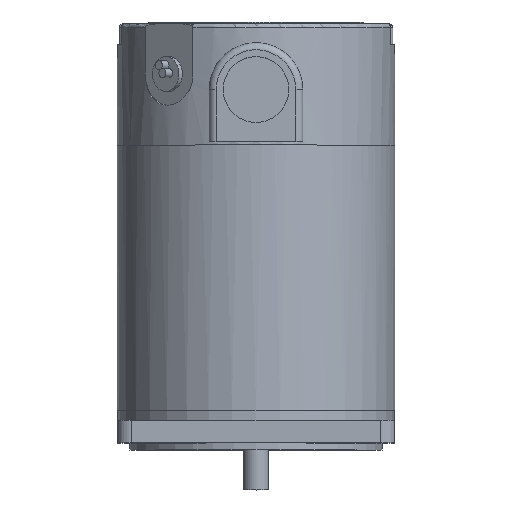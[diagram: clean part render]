
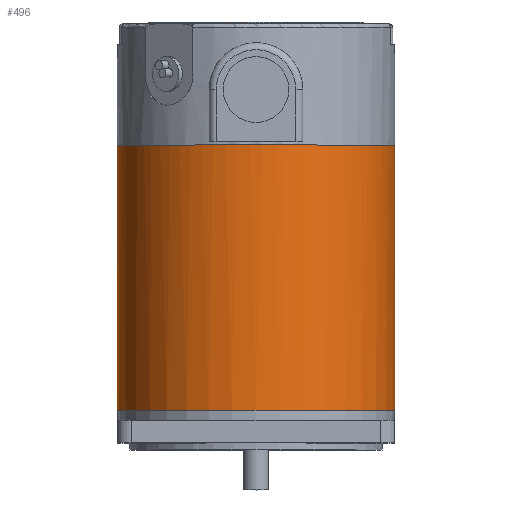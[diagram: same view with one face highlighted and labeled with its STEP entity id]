
A CAD part, top view. The second image highlights one B-rep face of the part: STEP entity #496.
In plain terms, the highlighted cylindrical face has radius 40.05 mm (diameter 80.1 mm), a full revolution.
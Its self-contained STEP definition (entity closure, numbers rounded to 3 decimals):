
#454=CARTESIAN_POINT('',(40.05,82.75,0.));
#455=VERTEX_POINT('',#454);
#456=CARTESIAN_POINT('',(0.0,82.75,0.0));
#457=DIRECTION('',(0.0,-1.0,0.0));
#458=DIRECTION('',(-1.0,0.0,0.0));
#459=AXIS2_PLACEMENT_3D('',#456,#457,#458);
#460=CIRCLE('',#459,40.05);
#461=EDGE_CURVE('',#455,#455,#460,.T.);
#477=CARTESIAN_POINT('',(0.0,6.25,0.0));
#478=DIRECTION('',(0.0,1.0,0.0));
#479=DIRECTION('',(-1.0,0.0,0.0));
#480=AXIS2_PLACEMENT_3D('',#477,#478,#479);
#481=CYLINDRICAL_SURFACE('',#480,40.05);
#482=ORIENTED_EDGE('',*,*,#461,.T.);
#483=EDGE_LOOP('',(#482));
#484=FACE_OUTER_BOUND('',#483,.T.);
#485=CARTESIAN_POINT('',(40.05,6.25,0.));
#486=VERTEX_POINT('',#485);
#487=CARTESIAN_POINT('',(0.0,6.25,0.0));
#488=DIRECTION('',(0.0,-1.0,0.0));
#489=DIRECTION('',(-1.0,0.0,0.0));
#490=AXIS2_PLACEMENT_3D('',#487,#488,#489);
#491=CIRCLE('',#490,40.05);
#492=EDGE_CURVE('',#486,#486,#491,.T.);
#493=ORIENTED_EDGE('',*,*,#492,.F.);
#494=EDGE_LOOP('',(#493));
#495=FACE_BOUND('',#494,.T.);
#496=ADVANCED_FACE('',(#484,#495),#481,.T.);
